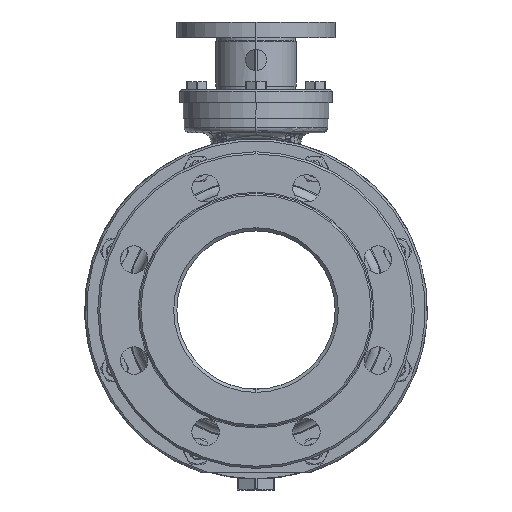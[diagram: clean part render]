
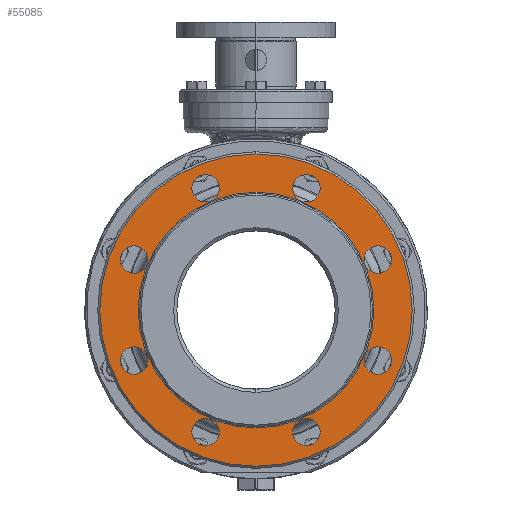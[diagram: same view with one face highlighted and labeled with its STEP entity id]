
A CAD part, left-side view. The second image highlights one B-rep face of the part: STEP entity #55085.
In plain terms, the highlighted planar face has unit normal (-1, 0, 0).
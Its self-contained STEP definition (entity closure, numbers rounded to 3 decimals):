
#8013=CARTESIAN_POINT('',(-195.,0.,0.));
#8014=DIRECTION('',(1.,0.,0.));
#8015=DIRECTION('',(0.,0.,-1.));
#8016=AXIS2_PLACEMENT_3D('',#8013,#8014,#8015);
#8018=CARTESIAN_POINT('',(-195.,0.,0.));
#8019=DIRECTION('',(1.,0.,0.));
#8020=DIRECTION('',(0.,0.,1.));
#8021=AXIS2_PLACEMENT_3D('',#8018,#8019,#8020);
#8023=CARTESIAN_POINT('',(-195.,0.,0.));
#8024=DIRECTION('',(1.,0.,0.));
#8025=DIRECTION('',(0.,0.,1.));
#8026=AXIS2_PLACEMENT_3D('',#8023,#8024,#8025);
#8028=CARTESIAN_POINT('',(-195.,0.,0.));
#8029=DIRECTION('',(1.,0.,0.));
#8030=DIRECTION('',(0.,0.,-1.));
#8031=AXIS2_PLACEMENT_3D('',#8028,#8029,#8030);
#8033=CARTESIAN_POINT('',(-195.,47.835,115.485));
#8034=DIRECTION('',(1.,0.,0.));
#8035=DIRECTION('',(0.,1.,0.));
#8036=AXIS2_PLACEMENT_3D('',#8033,#8034,#8035);
#8038=CARTESIAN_POINT('',(-195.,47.835,115.485));
#8039=DIRECTION('',(1.,0.,0.));
#8040=DIRECTION('',(0.,-1.,0.));
#8041=AXIS2_PLACEMENT_3D('',#8038,#8039,#8040);
#8043=CARTESIAN_POINT('',(-195.,115.485,47.835));
#8044=DIRECTION('',(1.,0.,0.));
#8045=DIRECTION('',(0.,1.,0.));
#8046=AXIS2_PLACEMENT_3D('',#8043,#8044,#8045);
#8048=CARTESIAN_POINT('',(-195.,115.485,47.835));
#8049=DIRECTION('',(1.,0.,0.));
#8050=DIRECTION('',(0.,-1.,0.));
#8051=AXIS2_PLACEMENT_3D('',#8048,#8049,#8050);
#8053=CARTESIAN_POINT('',(-195.,115.485,-47.835));
#8054=DIRECTION('',(1.,0.,0.));
#8055=DIRECTION('',(0.,1.,0.));
#8056=AXIS2_PLACEMENT_3D('',#8053,#8054,#8055);
#8058=CARTESIAN_POINT('',(-195.,115.485,-47.835));
#8059=DIRECTION('',(1.,0.,0.));
#8060=DIRECTION('',(0.,-1.,0.));
#8061=AXIS2_PLACEMENT_3D('',#8058,#8059,#8060);
#8063=CARTESIAN_POINT('',(-195.,47.835,-115.485));
#8064=DIRECTION('',(1.,0.,0.));
#8065=DIRECTION('',(0.,1.,0.));
#8066=AXIS2_PLACEMENT_3D('',#8063,#8064,#8065);
#8068=CARTESIAN_POINT('',(-195.,47.835,-115.485));
#8069=DIRECTION('',(1.,0.,0.));
#8070=DIRECTION('',(0.,-1.,0.));
#8071=AXIS2_PLACEMENT_3D('',#8068,#8069,#8070);
#8073=CARTESIAN_POINT('',(-195.,-47.835,-115.485));
#8074=DIRECTION('',(1.,0.,0.));
#8075=DIRECTION('',(0.,1.,0.));
#8076=AXIS2_PLACEMENT_3D('',#8073,#8074,#8075);
#8078=CARTESIAN_POINT('',(-195.,-47.835,-115.485));
#8079=DIRECTION('',(1.,0.,0.));
#8080=DIRECTION('',(0.,-1.,0.));
#8081=AXIS2_PLACEMENT_3D('',#8078,#8079,#8080);
#8083=CARTESIAN_POINT('',(-195.,-115.485,-47.835));
#8084=DIRECTION('',(1.,0.,0.));
#8085=DIRECTION('',(0.,1.,0.));
#8086=AXIS2_PLACEMENT_3D('',#8083,#8084,#8085);
#8088=CARTESIAN_POINT('',(-195.,-115.485,-47.835));
#8089=DIRECTION('',(1.,0.,0.));
#8090=DIRECTION('',(0.,-1.,0.));
#8091=AXIS2_PLACEMENT_3D('',#8088,#8089,#8090);
#8093=CARTESIAN_POINT('',(-195.,-115.485,47.835));
#8094=DIRECTION('',(1.,0.,0.));
#8095=DIRECTION('',(0.,1.,0.));
#8096=AXIS2_PLACEMENT_3D('',#8093,#8094,#8095);
#8098=CARTESIAN_POINT('',(-195.,-115.485,47.835));
#8099=DIRECTION('',(1.,0.,0.));
#8100=DIRECTION('',(0.,-1.,0.));
#8101=AXIS2_PLACEMENT_3D('',#8098,#8099,#8100);
#8103=CARTESIAN_POINT('',(-195.,-47.835,115.485));
#8104=DIRECTION('',(1.,0.,0.));
#8105=DIRECTION('',(0.,1.,0.));
#8106=AXIS2_PLACEMENT_3D('',#8103,#8104,#8105);
#8108=CARTESIAN_POINT('',(-195.,-47.835,115.485));
#8109=DIRECTION('',(1.,0.,0.));
#8110=DIRECTION('',(0.,-1.,0.));
#8111=AXIS2_PLACEMENT_3D('',#8108,#8109,#8110);
#34277=CARTESIAN_POINT('',(-195.,60.835,115.485));
#34278=VERTEX_POINT('',#34277);
#34279=CARTESIAN_POINT('',(-195.,34.835,115.485));
#34280=VERTEX_POINT('',#34279);
#34285=CARTESIAN_POINT('',(-195.,128.485,47.835));
#34286=VERTEX_POINT('',#34285);
#34287=CARTESIAN_POINT('',(-195.,102.485,47.835));
#34288=VERTEX_POINT('',#34287);
#34293=CARTESIAN_POINT('',(-195.,128.485,-47.835));
#34294=VERTEX_POINT('',#34293);
#34295=CARTESIAN_POINT('',(-195.,102.485,-47.835));
#34296=VERTEX_POINT('',#34295);
#34301=CARTESIAN_POINT('',(-195.,60.835,-115.485));
#34302=VERTEX_POINT('',#34301);
#34303=CARTESIAN_POINT('',(-195.,34.835,-115.485));
#34304=VERTEX_POINT('',#34303);
#34309=CARTESIAN_POINT('',(-195.,-34.835,-115.485));
#34310=VERTEX_POINT('',#34309);
#34311=CARTESIAN_POINT('',(-195.,-60.835,-115.485));
#34312=VERTEX_POINT('',#34311);
#34317=CARTESIAN_POINT('',(-195.,-102.485,-47.835));
#34318=VERTEX_POINT('',#34317);
#34319=CARTESIAN_POINT('',(-195.,-128.485,-47.835));
#34320=VERTEX_POINT('',#34319);
#34325=CARTESIAN_POINT('',(-195.,-102.485,47.835));
#34326=VERTEX_POINT('',#34325);
#34327=CARTESIAN_POINT('',(-195.,-128.485,47.835));
#34328=VERTEX_POINT('',#34327);
#34333=CARTESIAN_POINT('',(-195.,-34.835,115.485));
#34334=VERTEX_POINT('',#34333);
#34335=CARTESIAN_POINT('',(-195.,-60.835,115.485));
#34336=VERTEX_POINT('',#34335);
#34367=CARTESIAN_POINT('',(-195.,0.,-148.));
#34368=CARTESIAN_POINT('',(-195.,0.,148.));
#34369=VERTEX_POINT('',#34367);
#34370=VERTEX_POINT('',#34368);
#34375=CARTESIAN_POINT('',(-195.,0.,111.663));
#34376=CARTESIAN_POINT('',(-195.,0.,-111.663));
#34377=VERTEX_POINT('',#34375);
#34378=VERTEX_POINT('',#34376);
#55022=CARTESIAN_POINT('',(-195.,0.,0.));
#55023=DIRECTION('',(-1.,0.,0.));
#55024=DIRECTION('',(0.,0.,-1.));
#55025=AXIS2_PLACEMENT_3D('',#55022,#55023,#55024);
#55026=PLANE('',#55025);
#55028=ORIENTED_EDGE('',*,*,#55027,.T.);
#55030=ORIENTED_EDGE('',*,*,#55029,.T.);
#55031=EDGE_LOOP('',(#55028,#55030));
#55032=FACE_OUTER_BOUND('',#55031,.F.);
#55033=ORIENTED_EDGE('',*,*,#55004,.F.);
#55034=ORIENTED_EDGE('',*,*,#54989,.F.);
#55035=EDGE_LOOP('',(#55033,#55034));
#55036=FACE_BOUND('',#55035,.F.);
#55038=ORIENTED_EDGE('',*,*,#55037,.F.);
#55040=ORIENTED_EDGE('',*,*,#55039,.F.);
#55041=EDGE_LOOP('',(#55038,#55040));
#55042=FACE_BOUND('',#55041,.F.);
#55044=ORIENTED_EDGE('',*,*,#55043,.F.);
#55046=ORIENTED_EDGE('',*,*,#55045,.F.);
#55047=EDGE_LOOP('',(#55044,#55046));
#55048=FACE_BOUND('',#55047,.F.);
#55050=ORIENTED_EDGE('',*,*,#55049,.F.);
#55052=ORIENTED_EDGE('',*,*,#55051,.F.);
#55053=EDGE_LOOP('',(#55050,#55052));
#55054=FACE_BOUND('',#55053,.F.);
#55056=ORIENTED_EDGE('',*,*,#55055,.F.);
#55058=ORIENTED_EDGE('',*,*,#55057,.F.);
#55059=EDGE_LOOP('',(#55056,#55058));
#55060=FACE_BOUND('',#55059,.F.);
#55062=ORIENTED_EDGE('',*,*,#55061,.F.);
#55064=ORIENTED_EDGE('',*,*,#55063,.F.);
#55065=EDGE_LOOP('',(#55062,#55064));
#55066=FACE_BOUND('',#55065,.F.);
#55068=ORIENTED_EDGE('',*,*,#55067,.F.);
#55070=ORIENTED_EDGE('',*,*,#55069,.F.);
#55071=EDGE_LOOP('',(#55068,#55070));
#55072=FACE_BOUND('',#55071,.F.);
#55074=ORIENTED_EDGE('',*,*,#55073,.F.);
#55076=ORIENTED_EDGE('',*,*,#55075,.F.);
#55077=EDGE_LOOP('',(#55074,#55076));
#55078=FACE_BOUND('',#55077,.F.);
#55080=ORIENTED_EDGE('',*,*,#55079,.F.);
#55082=ORIENTED_EDGE('',*,*,#55081,.F.);
#55083=EDGE_LOOP('',(#55080,#55082));
#55084=FACE_BOUND('',#55083,.F.);
#55085=ADVANCED_FACE('',(#55032,#55036,#55042,#55048,#55054,#55060,#55066,
#55072,#55078,#55084),#55026,.T.);
#8017=CIRCLE('',#8016,148.);
#8022=CIRCLE('',#8021,148.);
#8027=CIRCLE('',#8026,111.663);
#8032=CIRCLE('',#8031,111.663);
#8037=CIRCLE('',#8036,13.);
#8042=CIRCLE('',#8041,13.);
#8047=CIRCLE('',#8046,13.);
#8052=CIRCLE('',#8051,13.);
#8057=CIRCLE('',#8056,13.);
#8062=CIRCLE('',#8061,13.);
#8067=CIRCLE('',#8066,13.);
#8072=CIRCLE('',#8071,13.);
#8077=CIRCLE('',#8076,13.);
#8082=CIRCLE('',#8081,13.);
#8087=CIRCLE('',#8086,13.);
#8092=CIRCLE('',#8091,13.);
#8097=CIRCLE('',#8096,13.);
#8102=CIRCLE('',#8101,13.);
#8107=CIRCLE('',#8106,13.);
#8112=CIRCLE('',#8111,13.);
#54989=EDGE_CURVE('',#34378,#34377,#8032,.T.);
#55004=EDGE_CURVE('',#34377,#34378,#8027,.T.);
#55027=EDGE_CURVE('',#34369,#34370,#8017,.T.);
#55029=EDGE_CURVE('',#34370,#34369,#8022,.T.);
#55037=EDGE_CURVE('',#34278,#34280,#8037,.T.);
#55039=EDGE_CURVE('',#34280,#34278,#8042,.T.);
#55043=EDGE_CURVE('',#34286,#34288,#8047,.T.);
#55045=EDGE_CURVE('',#34288,#34286,#8052,.T.);
#55049=EDGE_CURVE('',#34294,#34296,#8057,.T.);
#55051=EDGE_CURVE('',#34296,#34294,#8062,.T.);
#55055=EDGE_CURVE('',#34302,#34304,#8067,.T.);
#55057=EDGE_CURVE('',#34304,#34302,#8072,.T.);
#55061=EDGE_CURVE('',#34310,#34312,#8077,.T.);
#55063=EDGE_CURVE('',#34312,#34310,#8082,.T.);
#55067=EDGE_CURVE('',#34318,#34320,#8087,.T.);
#55069=EDGE_CURVE('',#34320,#34318,#8092,.T.);
#55073=EDGE_CURVE('',#34326,#34328,#8097,.T.);
#55075=EDGE_CURVE('',#34328,#34326,#8102,.T.);
#55079=EDGE_CURVE('',#34334,#34336,#8107,.T.);
#55081=EDGE_CURVE('',#34336,#34334,#8112,.T.);
